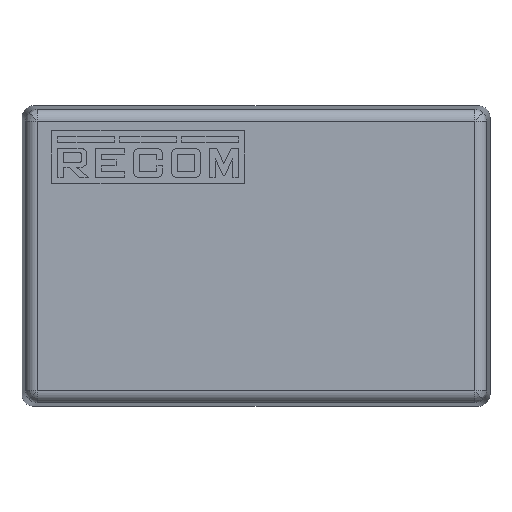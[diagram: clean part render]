
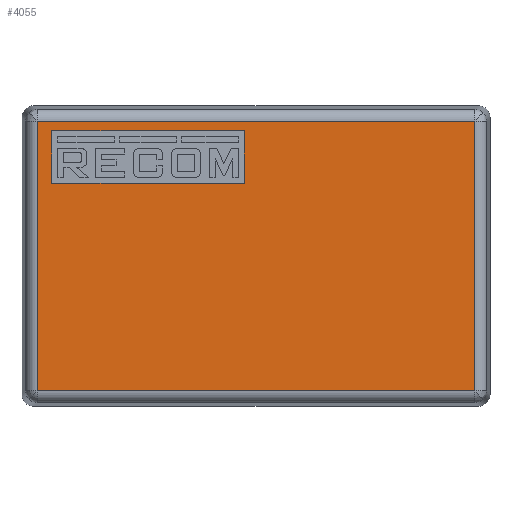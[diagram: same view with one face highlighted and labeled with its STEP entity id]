
A CAD part, front view. The second image highlights one B-rep face of the part: STEP entity #4055.
In plain terms, the highlighted planar face has unit normal (0, -1, 0).
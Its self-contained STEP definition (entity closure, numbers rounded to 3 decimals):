
#23 = CARTESIAN_POINT ( 'NONE',  ( 0., -10.2, 0. ) ) ;
#54 = VERTEX_POINT ( 'NONE', #5605 ) ;
#98 = DIRECTION ( 'NONE',  ( 1., 0., 0. ) ) ;
#235 = CARTESIAN_POINT ( 'NONE',  ( 0., -10.2, 8.588 ) ) ;
#513 = VERTEX_POINT ( 'NONE', #5082 ) ;
#553 = ORIENTED_EDGE ( 'NONE', *, *, #13836, .F. ) ;
#713 = VERTEX_POINT ( 'NONE', #11457 ) ;
#777 = CARTESIAN_POINT ( 'NONE',  ( -15.004, -10.2, 9.509 ) ) ;
#929 = DIRECTION ( 'NONE',  ( 0., 0., 1. ) ) ;
#1037 = ORIENTED_EDGE ( 'NONE', *, *, #4825, .F. ) ;
#1164 = ORIENTED_EDGE ( 'NONE', *, *, #11854, .F. ) ;
#1178 = LINE ( 'NONE', #12717, #8716 ) ;
#2228 = DIRECTION ( 'NONE',  ( 1., 0., 0. ) ) ;
#2317 = VECTOR ( 'NONE', #7161, 1000. ) ;
#2452 = CARTESIAN_POINT ( 'NONE',  ( -14., -10.2, 0. ) ) ;
#2461 = VERTEX_POINT ( 'NONE', #12140 ) ;
#2667 = VERTEX_POINT ( 'NONE', #11221 ) ;
#2687 = LINE ( 'NONE', #11545, #2317 ) ;
#3009 = AXIS2_PLACEMENT_3D ( 'NONE', #23, #14712, #98 ) ;
#3015 = VECTOR ( 'NONE', #13803, 1000. ) ;
#3325 = EDGE_CURVE ( 'NONE', #3933, #513, #14630, .T. ) ;
#3471 = CARTESIAN_POINT ( 'NONE',  ( 15.004, -10.2, 9.254 ) ) ;
#3779 = ORIENTED_EDGE ( 'NONE', *, *, #11498, .F. ) ;
#3871 = VERTEX_POINT ( 'NONE', #13754 ) ;
#3933 = VERTEX_POINT ( 'NONE', #6089 ) ;
#4000 = ORIENTED_EDGE ( 'NONE', *, *, #8088, .F. ) ;
#4055 = ADVANCED_FACE ( 'NONE', ( #14493, #9872 ), #8765, .F. ) ;
#4825 = EDGE_CURVE ( 'NONE', #10488, #2461, #12428, .T. ) ;
#4858 = EDGE_CURVE ( 'NONE', #2461, #3933, #1178, .T. ) ;
#4878 = LINE ( 'NONE', #12845, #3015 ) ;
#5082 = CARTESIAN_POINT ( 'NONE',  ( -15.004, -10.2, 9.254 ) ) ;
#5605 = CARTESIAN_POINT ( 'NONE',  ( -14., -10.2, 8.588 ) ) ;
#5728 = DIRECTION ( 'NONE',  ( -1., 0., 0. ) ) ;
#5846 = ORIENTED_EDGE ( 'NONE', *, *, #4858, .F. ) ;
#6089 = CARTESIAN_POINT ( 'NONE',  ( -15.004, -10.2, -9.254 ) ) ;
#7151 = DIRECTION ( 'NONE',  ( 0., 0., -1. ) ) ;
#7161 = DIRECTION ( 'NONE',  ( 1., 0., 0. ) ) ;
#7253 = ORIENTED_EDGE ( 'NONE', *, *, #3325, .F. ) ;
#7653 = VECTOR ( 'NONE', #7151, 1000. ) ;
#7851 = ORIENTED_EDGE ( 'NONE', *, *, #11197, .F. ) ;
#7881 = DIRECTION ( 'NONE',  ( 0., 0., -1. ) ) ;
#8088 = EDGE_CURVE ( 'NONE', #3871, #2667, #4878, .T. ) ;
#8128 = LINE ( 'NONE', #2452, #7653 ) ;
#8177 = CARTESIAN_POINT ( 'NONE',  ( 15.004, -10.2, -9.509 ) ) ;
#8400 = VECTOR ( 'NONE', #2228, 1000. ) ;
#8716 = VECTOR ( 'NONE', #5728, 1000. ) ;
#8765 = PLANE ( 'NONE',  #3009 ) ;
#9056 = VECTOR ( 'NONE', #13873, 1000. ) ;
#9872 = FACE_OUTER_BOUND ( 'NONE', #9991, .T. ) ;
#9991 = EDGE_LOOP ( 'NONE', ( #1037, #1164, #7253, #5846 ) ) ;
#10433 = LINE ( 'NONE', #235, #9056 ) ;
#10488 = VERTEX_POINT ( 'NONE', #3471 ) ;
#10586 = VECTOR ( 'NONE', #7881, 1000. ) ;
#11197 = EDGE_CURVE ( 'NONE', #2667, #54, #10433, .T. ) ;
#11221 = CARTESIAN_POINT ( 'NONE',  ( -0.8, -10.2, 8.588 ) ) ;
#11457 = CARTESIAN_POINT ( 'NONE',  ( -14., -10.2, 4.988 ) ) ;
#11498 = EDGE_CURVE ( 'NONE', #54, #713, #8128, .T. ) ;
#11523 = LINE ( 'NONE', #12370, #8400 ) ;
#11545 = CARTESIAN_POINT ( 'NONE',  ( 0., -10.2, 4.988 ) ) ;
#11718 = EDGE_LOOP ( 'NONE', ( #3779, #7851, #4000, #553 ) ) ;
#11854 = EDGE_CURVE ( 'NONE', #513, #10488, #11523, .T. ) ;
#12140 = CARTESIAN_POINT ( 'NONE',  ( 15.004, -10.2, -9.254 ) ) ;
#12370 = CARTESIAN_POINT ( 'NONE',  ( 15.259, -10.2, 9.254 ) ) ;
#12428 = LINE ( 'NONE', #8177, #10586 ) ;
#12717 = CARTESIAN_POINT ( 'NONE',  ( -15.259, -10.2, -9.254 ) ) ;
#12845 = CARTESIAN_POINT ( 'NONE',  ( -0.8, -10.2, 0. ) ) ;
#13031 = VECTOR ( 'NONE', #929, 1000. ) ;
#13754 = CARTESIAN_POINT ( 'NONE',  ( -0.8, -10.2, 4.988 ) ) ;
#13803 = DIRECTION ( 'NONE',  ( 0., 0., 1. ) ) ;
#13836 = EDGE_CURVE ( 'NONE', #713, #3871, #2687, .T. ) ;
#13873 = DIRECTION ( 'NONE',  ( -1., 0., 0. ) ) ;
#14493 = FACE_BOUND ( 'NONE', #11718, .T. ) ;
#14630 = LINE ( 'NONE', #777, #13031 ) ;
#14712 = DIRECTION ( 'NONE',  ( 0., 1., 0. ) ) ;
